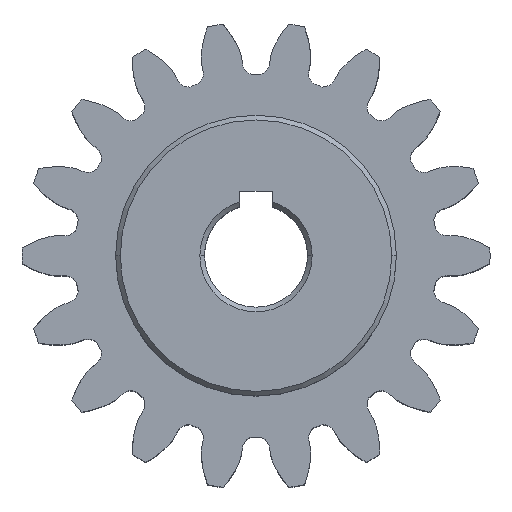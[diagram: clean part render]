
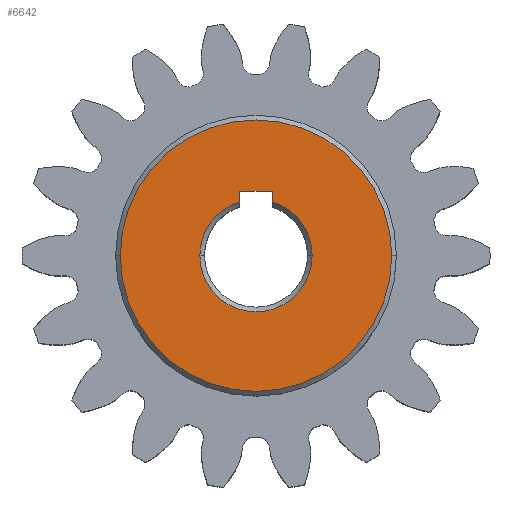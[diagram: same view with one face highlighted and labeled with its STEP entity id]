
A CAD part, top view. The second image highlights one B-rep face of the part: STEP entity #6642.
In plain terms, the highlighted planar face has unit normal (0, 0, 1).
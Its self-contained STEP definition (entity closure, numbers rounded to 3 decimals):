
#89 = EDGE_LOOP ( 'NONE', ( #6916, #5291, #2409, #4695, #5425, #6067 ) ) ;
#97 = CARTESIAN_POINT ( 'NONE',  ( 3.5, 8.2, 68. ) ) ;
#354 = DIRECTION ( 'NONE',  ( 0., 1., 0. ) ) ;
#364 = ORIENTED_EDGE ( 'NONE', *, *, #5313, .T. ) ;
#483 = DIRECTION ( 'NONE',  ( 0., 0., -1. ) ) ;
#531 = DIRECTION ( 'NONE',  ( 1., 0., 0. ) ) ;
#635 = EDGE_CURVE ( 'NONE', #2551, #1070, #2470, .T. ) ;
#646 = CARTESIAN_POINT ( 'NONE',  ( 3.5, 11.478, 68. ) ) ;
#733 = VERTEX_POINT ( 'NONE', #4202 ) ;
#752 = VERTEX_POINT ( 'NONE', #6337 ) ;
#912 = VECTOR ( 'NONE', #6457, 1000. ) ;
#977 = EDGE_CURVE ( 'NONE', #3286, #6413, #1128, .T. ) ;
#1056 = CARTESIAN_POINT ( 'NONE',  ( 3.5, 13.8, 68. ) ) ;
#1070 = VERTEX_POINT ( 'NONE', #2599 ) ;
#1128 = CIRCLE ( 'NONE', #6515, 29. ) ;
#1158 = CARTESIAN_POINT ( 'NONE',  ( -3.5, 13.8, 68. ) ) ;
#1181 = VERTEX_POINT ( 'NONE', #1158 ) ;
#1277 = VECTOR ( 'NONE', #354, 1000. ) ;
#1298 = CARTESIAN_POINT ( 'NONE',  ( 29., 0., 68. ) ) ;
#1455 = FACE_BOUND ( 'NONE', #89, .T. ) ;
#1710 = ORIENTED_EDGE ( 'NONE', *, *, #977, .T. ) ;
#2048 = CIRCLE ( 'NONE', #5643, 29. ) ;
#2150 = CIRCLE ( 'NONE', #2491, 12. ) ;
#2186 = DIRECTION ( 'NONE',  ( 0., 0., -1. ) ) ;
#2297 = CARTESIAN_POINT ( 'NONE',  ( 0., 0., 68. ) ) ;
#2409 = ORIENTED_EDGE ( 'NONE', *, *, #3465, .T. ) ;
#2470 = CIRCLE ( 'NONE', #6399, 12. ) ;
#2491 = AXIS2_PLACEMENT_3D ( 'NONE', #3196, #4254, #4745 ) ;
#2551 = VERTEX_POINT ( 'NONE', #4680 ) ;
#2578 = EDGE_LOOP ( 'NONE', ( #364, #1710 ) ) ;
#2599 = CARTESIAN_POINT ( 'NONE',  ( -3.5, 11.478, 68. ) ) ;
#2613 = CIRCLE ( 'NONE', #6089, 12. ) ;
#3120 = EDGE_CURVE ( 'NONE', #752, #5304, #4317, .T. ) ;
#3196 = CARTESIAN_POINT ( 'NONE',  ( 0., 0., 68. ) ) ;
#3286 = VERTEX_POINT ( 'NONE', #1298 ) ;
#3465 = EDGE_CURVE ( 'NONE', #733, #2551, #2150, .T. ) ;
#3497 = EDGE_CURVE ( 'NONE', #1181, #752, #6849, .T. ) ;
#3595 = PLANE ( 'NONE',  #5646 ) ;
#3920 = CARTESIAN_POINT ( 'NONE',  ( 0., 0., 68. ) ) ;
#4061 = VECTOR ( 'NONE', #5308, 1000. ) ;
#4118 = CARTESIAN_POINT ( 'NONE',  ( -3.5, 8.2, 68. ) ) ;
#4202 = CARTESIAN_POINT ( 'NONE',  ( 12., 0., 68. ) ) ;
#4254 = DIRECTION ( 'NONE',  ( 0., 0., -1. ) ) ;
#4317 = LINE ( 'NONE', #97, #912 ) ;
#4680 = CARTESIAN_POINT ( 'NONE',  ( -12., 0., 68. ) ) ;
#4684 = DIRECTION ( 'NONE',  ( 0., 0., 1. ) ) ;
#4695 = ORIENTED_EDGE ( 'NONE', *, *, #635, .T. ) ;
#4745 = DIRECTION ( 'NONE',  ( 1., 0., 0. ) ) ;
#5032 = DIRECTION ( 'NONE',  ( 0., 0., 1. ) ) ;
#5291 = ORIENTED_EDGE ( 'NONE', *, *, #5529, .T. ) ;
#5304 = VERTEX_POINT ( 'NONE', #646 ) ;
#5308 = DIRECTION ( 'NONE',  ( 1., 0., 0. ) ) ;
#5313 = EDGE_CURVE ( 'NONE', #6413, #3286, #2048, .T. ) ;
#5425 = ORIENTED_EDGE ( 'NONE', *, *, #6853, .T. ) ;
#5462 = DIRECTION ( 'NONE',  ( 1., 0., 0. ) ) ;
#5529 = EDGE_CURVE ( 'NONE', #5304, #733, #2613, .T. ) ;
#5643 = AXIS2_PLACEMENT_3D ( 'NONE', #3920, #5032, #5462 ) ;
#5646 = AXIS2_PLACEMENT_3D ( 'NONE', #5739, #4684, #6825 ) ;
#5695 = DIRECTION ( 'NONE',  ( 0., 0., 1. ) ) ;
#5739 = CARTESIAN_POINT ( 'NONE',  ( 0., 0., 68. ) ) ;
#5795 = CARTESIAN_POINT ( 'NONE',  ( 0., 0., 68. ) ) ;
#6067 = ORIENTED_EDGE ( 'NONE', *, *, #3497, .T. ) ;
#6089 = AXIS2_PLACEMENT_3D ( 'NONE', #6471, #2186, #531 ) ;
#6232 = CARTESIAN_POINT ( 'NONE',  ( -29., 0., 68. ) ) ;
#6264 = FACE_OUTER_BOUND ( 'NONE', #2578, .T. ) ;
#6318 = DIRECTION ( 'NONE',  ( 1., 0., 0. ) ) ;
#6337 = CARTESIAN_POINT ( 'NONE',  ( 3.5, 13.8, 68. ) ) ;
#6399 = AXIS2_PLACEMENT_3D ( 'NONE', #5795, #483, #6318 ) ;
#6413 = VERTEX_POINT ( 'NONE', #6232 ) ;
#6457 = DIRECTION ( 'NONE',  ( 0., -1., 0. ) ) ;
#6471 = CARTESIAN_POINT ( 'NONE',  ( 0., 0., 68. ) ) ;
#6515 = AXIS2_PLACEMENT_3D ( 'NONE', #2297, #5695, #6709 ) ;
#6642 = ADVANCED_FACE ( 'NONE', ( #6264, #1455 ), #3595, .T. ) ;
#6647 = LINE ( 'NONE', #4118, #1277 ) ;
#6709 = DIRECTION ( 'NONE',  ( 1., 0., 0. ) ) ;
#6825 = DIRECTION ( 'NONE',  ( 1., 0., 0. ) ) ;
#6849 = LINE ( 'NONE', #1056, #4061 ) ;
#6853 = EDGE_CURVE ( 'NONE', #1070, #1181, #6647, .T. ) ;
#6916 = ORIENTED_EDGE ( 'NONE', *, *, #3120, .T. ) ;
